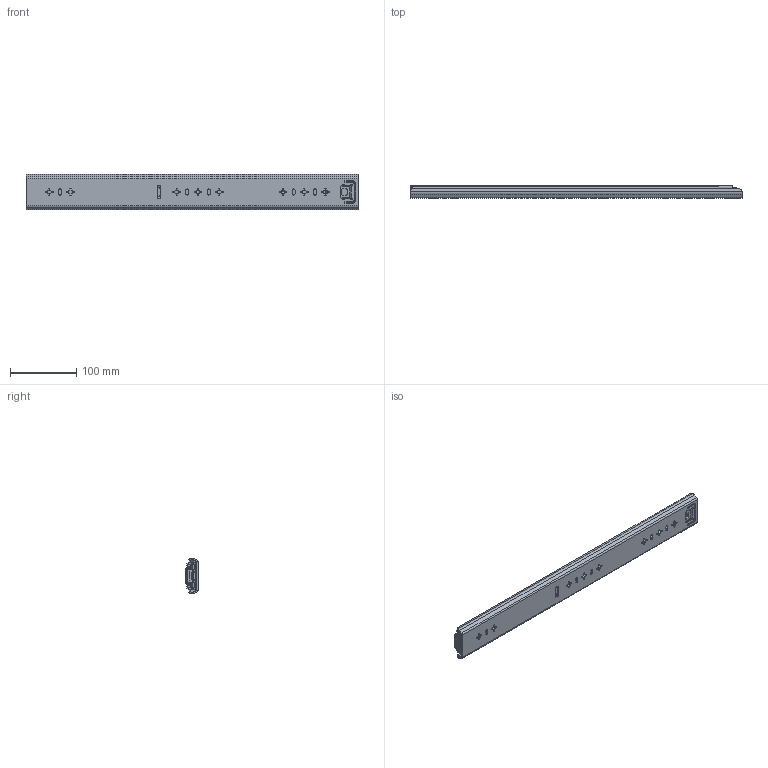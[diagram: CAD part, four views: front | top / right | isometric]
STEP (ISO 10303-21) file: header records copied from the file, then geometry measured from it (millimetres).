
FILE_DESCRIPTION((''),'2;1');
FILE_NAME('1053-02-20_ASM','2022-08-15T',('jishu015'),(''),'PRO/ENGINEER BY PARAMETRIC TECHNOLOGY CORPORATION, 2010280','PRO/ENGINEER BY PARAMETRIC TECHNOLOGY CORPORATION, 2010280','');
FILE_SCHEMA(('CONFIG_CONTROL_DESIGN'));
Length unit declared in the file: millimetre
Products named in the file (16): 1053-02-20WAIKE; 1053WEIJIAO______________; 53-WAIKEJIAO-20; 1053-02-20WAIKE_ASM; 1053ZHUTIAO-175______________; 53-5-6GANZHU______________; 1053ZHUTIAO-175MM_______________ASM; 1053-02-18ZHONGGUI; 53ZHIDIJIAO______________; 1053-02-18ZHONGGUI_ASM; 1053XIAOZHUJIA-14GE__; 1053XIAOZHUJIA-12GE__ASM; 1053-02-18NEIGUI______________; 53BACHA_____________; 1053-02-18NEIGUI_______________ASM; 1053-02-20_ASM
Assembly tree (59 placements, depth 3):
  1053-02-20_ASM
    1053-02-20WAIKE_ASM
      1053-02-20WAIKE
      1053WEIJIAO______________
      53-WAIKEJIAO-20
    1053ZHUTIAO-175MM_______________ASM  x2
      1053ZHUTIAO-175______________
      53-5-6GANZHU______________
    1053-02-18ZHONGGUI_ASM
      1053-02-18ZHONGGUI
      53ZHIDIJIAO______________
    1053XIAOZHUJIA-12GE__ASM
      1053XIAOZHUJIA-14GE__
      53-5-6GANZHU______________  x36
    1053-02-18NEIGUI_______________ASM
      1053-02-18NEIGUI______________
      53BACHA_____________
Bounding box: 500 x 18.7 x 53 mm (x, y, z)
Volume: 189332.2 mm3; surface area: 218068.9 mm2
Topology: 62 solids, 62 shells, 1808 faces, 5173 edges, 3235 vertices
Faces by surface type: cylinder 778, plane 722, sphere 122, cone 76, bspline 76, torus 34
Entity records: 59152 total; most frequent: CARTESIAN_POINT 14849, ORIENTED_EDGE 9370, DIRECTION 9192, EDGE_CURVE 4685, AXIS2_PLACEMENT_3D 3232, VERTEX_POINT 3021, VECTOR 2728, LINE 2728
